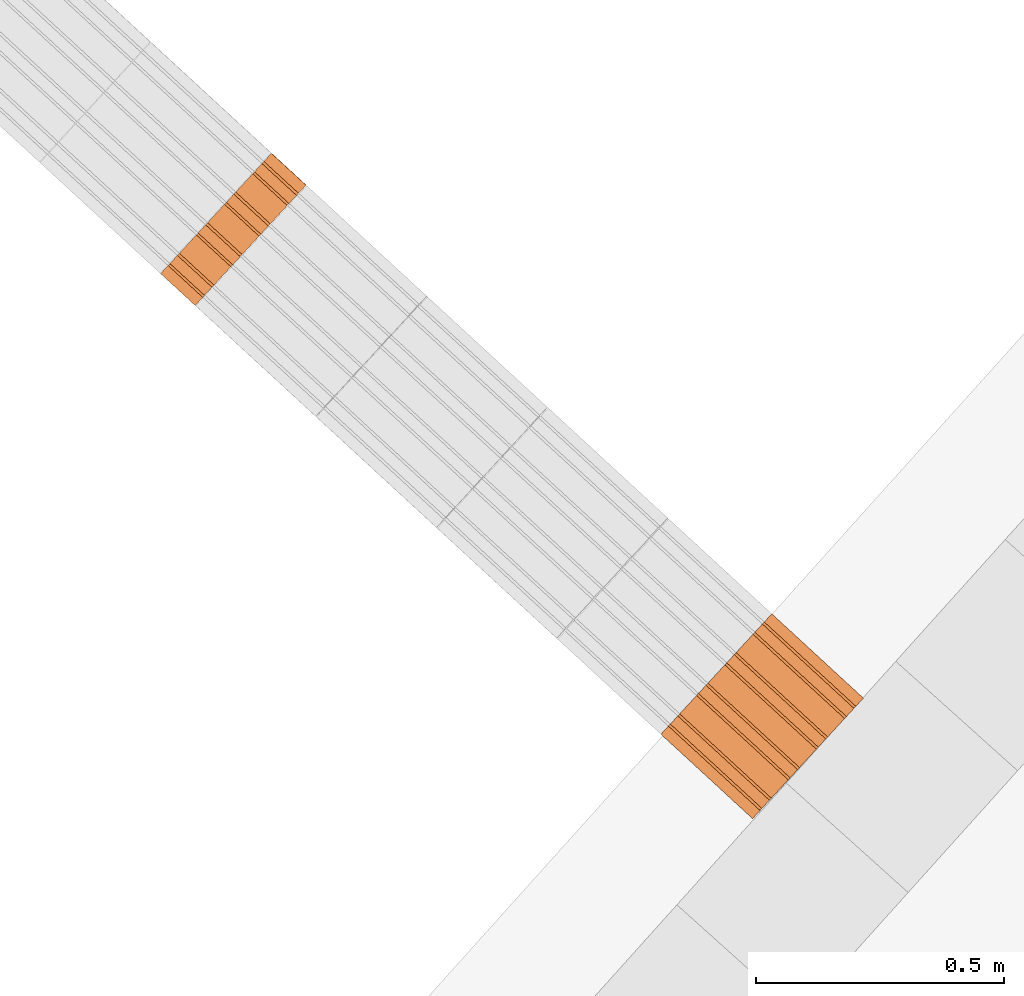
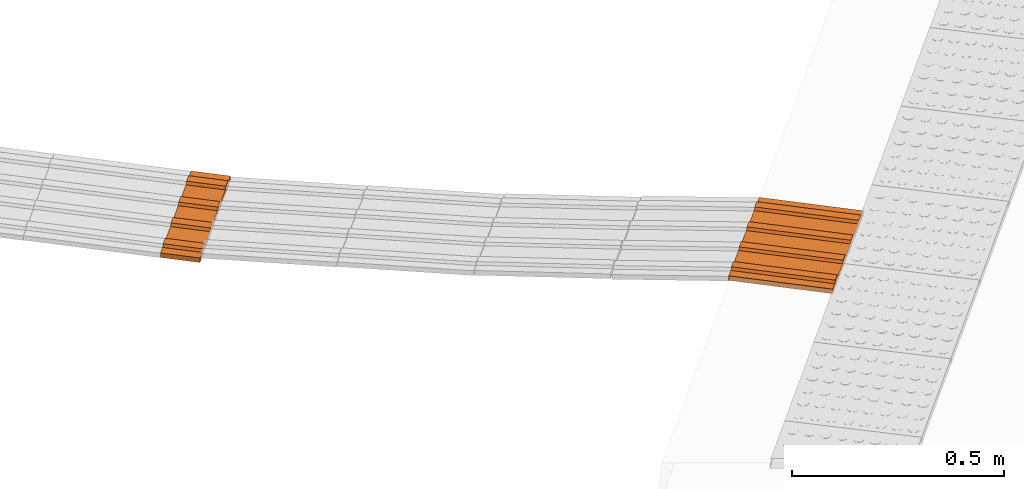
# One storey, part 219 of 237: 2 proxies.
"""IFC2X3 building model written with IfcOpenShell, lengths in millimetres."""

from ifc_helpers import new_model, entity, si_unit, converted_unit, derived_unit, money_unit, direction, frame, origin_with_axes, place, context, subcontext, project, spatial, open_shell, surface_model, type_object, element, save


model = new_model("IFC2X3")

# Units and contexts
model_context = context("Model", 3, precision=0.01, world=origin_with_axes(), true_north=direction((0.0, 1.0)))
body_context = subcontext(model_context, "Body", "Model", "MODEL_VIEW")
ifc_project = project(units=[si_unit("LENGTHUNIT", "METRE", prefix="MILLI"), si_unit("AREAUNIT", "SQUARE_METRE"), si_unit("VOLUMEUNIT", "CUBIC_METRE"), converted_unit("PLANEANGLEUNIT", "DEGREE", entity("IfcPlaneAngleMeasure", 0.0174532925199), si_unit("PLANEANGLEUNIT", "RADIAN"), dimensions=[0, 0, 0, 0, 0, 0, 0]), money_unit("USD"), converted_unit("TIMEUNIT", "Year", entity("IfcTimeMeasure", 31556926.0), si_unit("TIMEUNIT", "SECOND"), dimensions=[0, 0, 1, 0, 0, 0, 0]), si_unit("MASSUNIT", "GRAM", prefix="KILO"), si_unit("THERMODYNAMICTEMPERATUREUNIT", "DEGREE_CELSIUS"), si_unit("LUMINOUSINTENSITYUNIT", "LUMEN"), si_unit("ENERGYUNIT", "JOULE", prefix="MEGA"), derived_unit("THERMALCONDUCTANCEUNIT", [(si_unit("POWERUNIT", "WATT"), 1), (si_unit("LENGTHUNIT", "METRE"), -1), (si_unit("THERMODYNAMICTEMPERATUREUNIT", "KELVIN"), -1)]), derived_unit("SPECIFICHEATCAPACITYUNIT", [(si_unit("ENERGYUNIT", "JOULE"), 1), (si_unit("MASSUNIT", "GRAM", prefix="KILO"), -1), (si_unit("THERMODYNAMICTEMPERATUREUNIT", "KELVIN"), -1)]), derived_unit("MASSDENSITYUNIT", [(si_unit("MASSUNIT", "GRAM", prefix="KILO"), 1), (si_unit("VOLUMEUNIT", "CUBIC_METRE"), -1)])], contexts=[model_context])

# Site, building, storey
site_placement = place(None, origin_with_axes())
site = spatial("IfcSite", under=ifc_project, at=site_placement, Name="Local", CompositionType="ELEMENT")
building_placement = place(site_placement, origin_with_axes())
building = spatial("IfcBuilding", under=site, at=building_placement, Name="Construção", CompositionType="ELEMENT")
storey_placement = place(building_placement, origin_with_axes())
storey = spatial("IfcBuildingStorey", under=building, at=storey_placement, Name="Pavimento Térreo", CompositionType="ELEMENT", Elevation=0.0)

# Proxies
building_element_proxy_type = type_object("IfcBuildingElementProxyType", Name="Piso Direcional 27", PredefinedType="NOTDEFINED")
proxy_1_placement = place(storey_placement, frame((40627.9869891, 26410.0752605, -1755.3291284), z_axis=(0.0, 0.0, 1.0), x_axis=(-0.735681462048, 0.677327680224, 0.0)))
element("IfcBuildingElementProxy", 1, at=proxy_1_placement, inside=storey, type_object=building_element_proxy_type, Name="Objeto-0055", context=body_context, shape_type="SurfaceModel", body=[
    surface_model("IfcShellBasedSurfaceModel", [(0.0, -47.1083673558, 5.51094939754), (95.0, -47.1083673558, 5.51094939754), (95.0, -41.3085018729, 11.9986391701), (0.0, -41.3085018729, 11.9986391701)], [open_shell([[[0, 1, 2, 3]]])]),
    surface_model("IfcShellBasedSurfaceModel", [(95.0, -153.745925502, -4.47774610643), (95.0, 176.091239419, -14.8432966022), (95.0, 176.51004954, -1.51654246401), (95.0, 154.14820785, -0.813793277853), (95.0, 148.767152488, 6.02527108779), (95.0, 126.405310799, 6.72802027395), (95.0, 120.605445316, 0.240330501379), (95.0, 70.2913015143, 1.82151617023), (95.0, 64.9102461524, 8.66058053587), (95.0, 42.5484044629, 9.36332972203), (95.0, 36.74853898, 2.87563994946), (95.0, -13.5656048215, 4.45682561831), (95.0, -18.9466601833, 11.295889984), (95.0, -41.3085018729, 11.9986391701), (95.0, -47.1083673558, 5.51094939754), (95.0, -97.4225111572, 7.09213506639), (95.0, -102.803566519, 13.931199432), (95.0, -125.165408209, 14.6339486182), (95.0, -130.965273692, 8.14625884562), (95.0, -153.327115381, 8.84900803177)], [open_shell([[[0, 1, 2, 3, 4, 5, 6, 7, 8, 9, 10, 11, 12, 13, 14, 15, 16, 17, 18, 19]]])]),
    surface_model("IfcShellBasedSurfaceModel", [(0.0, -18.9466601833, 11.295889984), (95.0, -18.9466601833, 11.295889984), (95.0, -13.5656048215, 4.45682561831), (0.0, -13.5656048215, 4.45682561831)], [open_shell([[[0, 1, 2, 3]]])]),
    surface_model("IfcShellBasedSurfaceModel", [(0.0, -102.803566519, 13.931199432), (95.0, -102.803566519, 13.931199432), (95.0, -97.4225111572, 7.09213506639), (0.0, -97.4225111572, 7.09213506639)], [open_shell([[[0, 1, 2, 3]]])]),
    surface_model("IfcShellBasedSurfaceModel", [(0.0, 64.9102461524, 8.66058053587), (95.0, 64.9102461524, 8.66058053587), (95.0, 70.2913015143, 1.82151617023), (0.0, 70.2913015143, 1.82151617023)], [open_shell([[[0, 1, 2, 3]]])]),
    surface_model("IfcShellBasedSurfaceModel", [(0.0, 36.74853898, 2.87563994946), (95.0, 36.74853898, 2.87563994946), (95.0, 42.5484044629, 9.36332972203), (0.0, 42.5484044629, 9.36332972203)], [open_shell([[[0, 1, 2, 3]]])]),
    surface_model("IfcShellBasedSurfaceModel", [(0.0, -130.965273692, 8.14625884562), (95.0, -130.965273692, 8.14625884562), (95.0, -125.165408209, 14.6339486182), (0.0, -125.165408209, 14.6339486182)], [open_shell([[[0, 1, 2, 3]]])]),
    surface_model("IfcShellBasedSurfaceModel", [(0.0, 176.51004954, -1.51654246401), (0.0, 154.14820785, -0.813793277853), (95.0, 154.14820785, -0.813793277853), (95.0, 176.51004954, -1.51654246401)], [open_shell([[[0, 1, 2, 3]]])]),
    surface_model("IfcShellBasedSurfaceModel", [(0.0, 120.605445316, 0.240330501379), (95.0, 120.605445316, 0.240330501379), (95.0, 126.405310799, 6.72802027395), (0.0, 126.405310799, 6.72802027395)], [open_shell([[[0, 1, 2, 3]]])]),
    surface_model("IfcShellBasedSurfaceModel", [(0.0, 148.767152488, 6.02527108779), (95.0, 148.767152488, 6.02527108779), (95.0, 154.14820785, -0.813793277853), (0.0, 154.14820785, -0.813793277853)], [open_shell([[[0, 1, 2, 3]]])]),
    surface_model("IfcShellBasedSurfaceModel", [(0.0, 36.74853898, 2.87563994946), (0.0, -13.5656048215, 4.45682561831), (95.0, -13.5656048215, 4.45682561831), (95.0, 36.74853898, 2.87563994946)], [open_shell([[[0, 1, 2, 3]]])]),
    surface_model("IfcShellBasedSurfaceModel", [(0.0, 120.605445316, 0.240330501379), (0.0, 70.2913015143, 1.82151617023), (95.0, 70.2913015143, 1.82151617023), (95.0, 120.605445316, 0.240330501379)], [open_shell([[[0, 1, 2, 3]]])]),
    surface_model("IfcShellBasedSurfaceModel", [(0.0, 148.767152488, 6.02527108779), (0.0, 126.405310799, 6.72802027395), (95.0, 126.405310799, 6.72802027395), (95.0, 148.767152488, 6.02527108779)], [open_shell([[[0, 1, 2, 3]]])]),
    surface_model("IfcShellBasedSurfaceModel", [(0.0, 120.605445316, 0.240330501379), (0.0, 126.405310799, 6.72802027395), (0.0, 148.767152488, 6.02527108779), (0.0, 154.14820785, -0.813793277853), (0.0, 176.51004954, -1.51654246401), (0.0, 176.091239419, -14.8432966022), (0.0, -153.745925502, -4.47774610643), (0.0, -153.327115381, 8.84900803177), (0.0, -130.965273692, 8.14625884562), (0.0, -125.165408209, 14.6339486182), (0.0, -102.803566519, 13.931199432), (0.0, -97.4225111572, 7.09213506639), (0.0, -47.1083673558, 5.51094939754), (0.0, -41.3085018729, 11.9986391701), (0.0, -18.9466601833, 11.295889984), (0.0, -13.5656048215, 4.45682561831), (0.0, 36.74853898, 2.87563994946), (0.0, 42.5484044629, 9.36332972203), (0.0, 64.9102461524, 8.66058053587), (0.0, 70.2913015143, 1.82151617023)], [open_shell([[[0, 1, 2, 3, 4, 5, 6, 7, 8, 9, 10, 11, 12, 13, 14, 15, 16, 17, 18, 19]]])]),
    surface_model("IfcShellBasedSurfaceModel", [(95.0, -41.3085018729, 11.9986391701), (95.0, -18.9466601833, 11.295889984), (0.0, -18.9466601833, 11.295889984), (0.0, -41.3085018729, 11.9986391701)], [open_shell([[[0, 1, 2, 3]]])]),
    surface_model("IfcShellBasedSurfaceModel", [(0.0, -47.1083673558, 5.51094939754), (0.0, -97.4225111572, 7.09213506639), (95.0, -97.4225111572, 7.09213506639), (95.0, -47.1083673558, 5.51094939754)], [open_shell([[[0, 1, 2, 3]]])]),
    surface_model("IfcShellBasedSurfaceModel", [(95.0, 42.5484044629, 9.36332972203), (95.0, 64.9102461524, 8.66058053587), (0.0, 64.9102461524, 8.66058053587), (0.0, 42.5484044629, 9.36332972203)], [open_shell([[[0, 1, 2, 3]]])]),
    surface_model("IfcShellBasedSurfaceModel", [(95.0, -125.165408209, 14.6339486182), (95.0, -102.803566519, 13.931199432), (0.0, -102.803566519, 13.931199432), (0.0, -125.165408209, 14.6339486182)], [open_shell([[[0, 1, 2, 3]]])]),
    surface_model("IfcShellBasedSurfaceModel", [(95.0, 176.091239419, -14.8432966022), (0.0, 176.091239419, -14.8432966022), (0.0, 176.51004954, -1.51654246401), (95.0, 176.51004954, -1.51654246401)], [open_shell([[[0, 1, 2, 3]]])]),
    surface_model("IfcShellBasedSurfaceModel", [(95.0, -153.745925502, -4.47774610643), (0.0, -153.745925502, -4.47774610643), (0.0, 176.091239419, -14.8432966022), (95.0, 176.091239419, -14.8432966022)], [open_shell([[[0, 1, 2, 3]]])]),
    surface_model("IfcShellBasedSurfaceModel", [(95.0, -153.327115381, 8.84900803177), (95.0, -130.965273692, 8.14625884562), (0.0, -130.965273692, 8.14625884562), (0.0, -153.327115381, 8.84900803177)], [open_shell([[[0, 1, 2, 3]]])]),
    surface_model("IfcShellBasedSurfaceModel", [(0.0, -153.745925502, -4.47774610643), (95.0, -153.745925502, -4.47774610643), (95.0, -153.327115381, 8.84900803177), (0.0, -153.327115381, 8.84900803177)], [open_shell([[[0, 1, 2, 3]]])]),
])
proxy_2_placement = place(storey_placement, frame((41751.2643338, 25375.8848984, -1616.44838371), z_axis=(0.0, 0.0, 1.0), x_axis=(-0.735681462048, 0.677327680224, 0.0)))
element("IfcBuildingElementProxy", 2, at=proxy_2_placement, inside=storey, type_object=building_element_proxy_type, Name="Objeto-0055", context=body_context, shape_type="SurfaceModel", body=[
    surface_model("IfcShellBasedSurfaceModel", [(0.0, -47.258225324, 4.02852049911), (251.125772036, -47.258225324, 4.02852049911), (251.125772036, -41.665004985, 10.6951871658), (0.0, -41.665004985, 10.6951871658)], [open_shell([[[0, 1, 2, 3]]])]),
    surface_model("IfcShellBasedSurfaceModel", [(251.125772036, -153.529411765, -9.30481283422), (251.125772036, 176.470588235, -9.30481283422), (251.125772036, 176.470588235, 4.02852049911), (251.125772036, 154.097706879, 4.02852049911), (251.125772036, 148.50448654, 10.6951871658), (251.125772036, 126.131605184, 10.6951871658), (251.125772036, 120.538384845, 4.02852049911), (251.125772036, 70.1994017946, 4.02852049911), (251.125772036, 64.6061814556, 10.6951871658), (251.125772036, 42.2333000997, 10.6951871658), (251.125772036, 36.6400797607, 4.02852049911), (251.125772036, -13.6989032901, 4.02852049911), (251.125772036, -19.2921236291, 10.6951871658), (251.125772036, -41.665004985, 10.6951871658), (251.125772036, -47.258225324, 4.02852049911), (251.125772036, -97.5972083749, 4.02852049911), (251.125772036, -103.190428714, 10.6951871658), (251.125772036, -125.56331007, 10.6951871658), (251.125772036, -131.156530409, 4.02852049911), (251.125772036, -153.529411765, 4.02852049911)], [open_shell([[[0, 1, 2, 3, 4, 5, 6, 7, 8, 9, 10, 11, 12, 13, 14, 15, 16, 17, 18, 19]]])]),
    surface_model("IfcShellBasedSurfaceModel", [(0.0, -19.2921236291, 10.6951871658), (251.125772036, -19.2921236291, 10.6951871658), (251.125772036, -13.6989032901, 4.02852049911), (0.0, -13.6989032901, 4.02852049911)], [open_shell([[[0, 1, 2, 3]]])]),
    surface_model("IfcShellBasedSurfaceModel", [(0.0, -103.190428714, 10.6951871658), (251.125772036, -103.190428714, 10.6951871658), (251.125772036, -97.5972083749, 4.02852049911), (0.0, -97.5972083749, 4.02852049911)], [open_shell([[[0, 1, 2, 3]]])]),
    surface_model("IfcShellBasedSurfaceModel", [(0.0, 64.6061814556, 10.6951871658), (251.125772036, 64.6061814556, 10.6951871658), (251.125772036, 70.1994017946, 4.02852049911), (0.0, 70.1994017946, 4.02852049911)], [open_shell([[[0, 1, 2, 3]]])]),
    surface_model("IfcShellBasedSurfaceModel", [(0.0, 36.6400797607, 4.02852049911), (251.125772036, 36.6400797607, 4.02852049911), (251.125772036, 42.2333000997, 10.6951871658), (0.0, 42.2333000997, 10.6951871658)], [open_shell([[[0, 1, 2, 3]]])]),
    surface_model("IfcShellBasedSurfaceModel", [(0.0, -131.156530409, 4.02852049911), (251.125772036, -131.156530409, 4.02852049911), (251.125772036, -125.56331007, 10.6951871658), (0.0, -125.56331007, 10.6951871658)], [open_shell([[[0, 1, 2, 3]]])]),
    surface_model("IfcShellBasedSurfaceModel", [(0.0, 176.470588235, 4.02852049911), (0.0, 154.097706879, 4.02852049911), (251.125772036, 154.097706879, 4.02852049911), (251.125772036, 176.470588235, 4.02852049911)], [open_shell([[[0, 1, 2, 3]]])]),
    surface_model("IfcShellBasedSurfaceModel", [(0.0, 120.538384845, 4.02852049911), (251.125772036, 120.538384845, 4.02852049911), (251.125772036, 126.131605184, 10.6951871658), (0.0, 126.131605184, 10.6951871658)], [open_shell([[[0, 1, 2, 3]]])]),
    surface_model("IfcShellBasedSurfaceModel", [(0.0, 148.50448654, 10.6951871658), (251.125772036, 148.50448654, 10.6951871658), (251.125772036, 154.097706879, 4.02852049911), (0.0, 154.097706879, 4.02852049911)], [open_shell([[[0, 1, 2, 3]]])]),
    surface_model("IfcShellBasedSurfaceModel", [(0.0, 36.6400797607, 4.02852049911), (0.0, -13.6989032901, 4.02852049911), (251.125772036, -13.6989032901, 4.02852049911), (251.125772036, 36.6400797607, 4.02852049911)], [open_shell([[[0, 1, 2, 3]]])]),
    surface_model("IfcShellBasedSurfaceModel", [(0.0, 120.538384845, 4.02852049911), (0.0, 70.1994017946, 4.02852049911), (251.125772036, 70.1994017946, 4.02852049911), (251.125772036, 120.538384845, 4.02852049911)], [open_shell([[[0, 1, 2, 3]]])]),
    surface_model("IfcShellBasedSurfaceModel", [(0.0, 148.50448654, 10.6951871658), (0.0, 126.131605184, 10.6951871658), (251.125772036, 126.131605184, 10.6951871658), (251.125772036, 148.50448654, 10.6951871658)], [open_shell([[[0, 1, 2, 3]]])]),
    surface_model("IfcShellBasedSurfaceModel", [(0.0, 120.538384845, 4.02852049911), (0.0, 126.131605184, 10.6951871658), (0.0, 148.50448654, 10.6951871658), (0.0, 154.097706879, 4.02852049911), (0.0, 176.470588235, 4.02852049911), (0.0, 176.470588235, -9.30481283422), (0.0, -153.529411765, -9.30481283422), (0.0, -153.529411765, 4.02852049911), (0.0, -131.156530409, 4.02852049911), (0.0, -125.56331007, 10.6951871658), (0.0, -103.190428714, 10.6951871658), (0.0, -97.5972083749, 4.02852049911), (0.0, -47.258225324, 4.02852049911), (0.0, -41.665004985, 10.6951871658), (0.0, -19.2921236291, 10.6951871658), (0.0, -13.6989032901, 4.02852049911), (0.0, 36.6400797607, 4.02852049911), (0.0, 42.2333000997, 10.6951871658), (0.0, 64.6061814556, 10.6951871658), (0.0, 70.1994017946, 4.02852049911)], [open_shell([[[0, 1, 2, 3, 4, 5, 6, 7, 8, 9, 10, 11, 12, 13, 14, 15, 16, 17, 18, 19]]])]),
    surface_model("IfcShellBasedSurfaceModel", [(251.125772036, -41.665004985, 10.6951871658), (251.125772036, -19.2921236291, 10.6951871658), (0.0, -19.2921236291, 10.6951871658), (0.0, -41.665004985, 10.6951871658)], [open_shell([[[0, 1, 2, 3]]])]),
    surface_model("IfcShellBasedSurfaceModel", [(0.0, -47.258225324, 4.02852049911), (0.0, -97.5972083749, 4.02852049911), (251.125772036, -97.5972083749, 4.02852049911), (251.125772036, -47.258225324, 4.02852049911)], [open_shell([[[0, 1, 2, 3]]])]),
    surface_model("IfcShellBasedSurfaceModel", [(251.125772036, 42.2333000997, 10.6951871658), (251.125772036, 64.6061814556, 10.6951871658), (0.0, 64.6061814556, 10.6951871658), (0.0, 42.2333000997, 10.6951871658)], [open_shell([[[0, 1, 2, 3]]])]),
    surface_model("IfcShellBasedSurfaceModel", [(251.125772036, -125.56331007, 10.6951871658), (251.125772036, -103.190428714, 10.6951871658), (0.0, -103.190428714, 10.6951871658), (0.0, -125.56331007, 10.6951871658)], [open_shell([[[0, 1, 2, 3]]])]),
    surface_model("IfcShellBasedSurfaceModel", [(251.125772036, 176.470588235, -9.30481283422), (0.0, 176.470588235, -9.30481283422), (0.0, 176.470588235, 4.02852049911), (251.125772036, 176.470588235, 4.02852049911)], [open_shell([[[0, 1, 2, 3]]])]),
    surface_model("IfcShellBasedSurfaceModel", [(251.125772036, -153.529411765, -9.30481283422), (0.0, -153.529411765, -9.30481283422), (0.0, 176.470588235, -9.30481283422), (251.125772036, 176.470588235, -9.30481283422)], [open_shell([[[0, 1, 2, 3]]])]),
    surface_model("IfcShellBasedSurfaceModel", [(251.125772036, -153.529411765, 4.02852049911), (251.125772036, -131.156530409, 4.02852049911), (0.0, -131.156530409, 4.02852049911), (0.0, -153.529411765, 4.02852049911)], [open_shell([[[0, 1, 2, 3]]])]),
    surface_model("IfcShellBasedSurfaceModel", [(0.0, -153.529411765, -9.30481283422), (251.125772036, -153.529411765, -9.30481283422), (251.125772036, -153.529411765, 4.02852049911), (0.0, -153.529411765, 4.02852049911)], [open_shell([[[0, 1, 2, 3]]])]),
])

save(model, "model.ifc")
